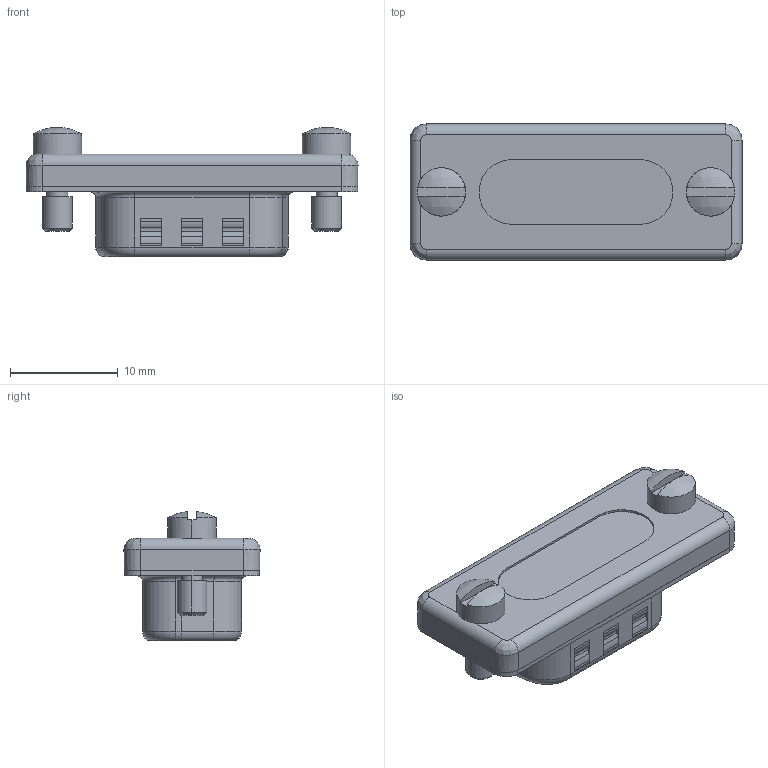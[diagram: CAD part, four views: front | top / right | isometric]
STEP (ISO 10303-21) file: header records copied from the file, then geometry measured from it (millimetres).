
FILE_DESCRIPTION(/* description */ (''),/* implementation_level */ '2;1');
FILE_NAME(/* name */ '100627931ugm000_a.stp',/* time_stamp */ '2015-06-24T04:03:17+02:00',/* author */ (''),/* organization */ (''),/* preprocessor_version */ 'ST-DEVELOPER v15',/* originating_system */ 'SIEMENS PLM Software NX 8.5',/* authorisation */ '');
FILE_SCHEMA (('AUTOMOTIVE_DESIGN { 1 0 10303 214 3 1 1 1 }'));
Length unit declared in the file: millimetre
Products named in the file (1): 100627931ugm000_a
Bounding box: 30.83 x 12.63 x 11.99 mm (x, y, z)
Volume: 1629.2 mm3; surface area: 1745.1 mm2
Topology: 1 solids, 1 shells, 252 faces, 622 edges, 401 vertices
Faces by surface type: plane 115, cylinder 111, torus 10, cone 8, sphere 4, bspline 4
Entity records: 7766 total; most frequent: CARTESIAN_POINT 1696, DIRECTION 1289, ORIENTED_EDGE 1244, EDGE_CURVE 622, AXIS2_PLACEMENT_3D 478, VERTEX_POINT 399, LINE 333, VECTOR 333
